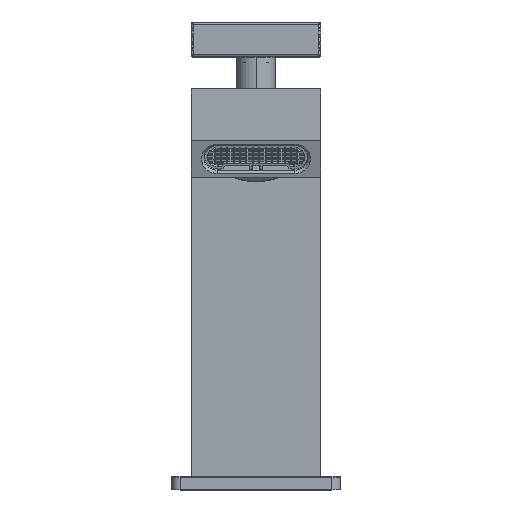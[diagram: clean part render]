
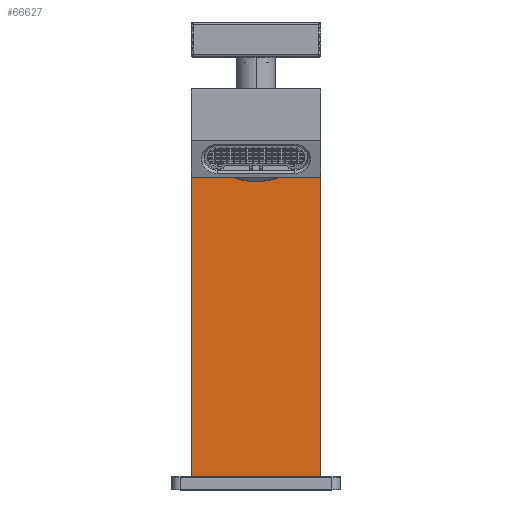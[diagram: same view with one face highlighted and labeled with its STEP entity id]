
A CAD part, top view. The second image highlights one B-rep face of the part: STEP entity #66627.
In plain terms, the highlighted planar face has unit normal (0, 0, 1).
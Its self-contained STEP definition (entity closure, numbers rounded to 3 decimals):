
#7160=DIRECTION('',(-1.,0.,0.));
#7161=VECTOR('',#7160,30.);
#7162=CARTESIAN_POINT('',(15.,81.,15.));
#7163=LINE('',#7162,#7161);
#7172=DIRECTION('',(1.,0.,0.));
#7173=VECTOR('',#7172,30.);
#7174=CARTESIAN_POINT('',(-15.,0.,15.));
#7175=LINE('',#7174,#7173);
#7192=DIRECTION('',(0.,-1.,0.));
#7193=VECTOR('',#7192,81.);
#7194=CARTESIAN_POINT('',(15.,81.,15.));
#7195=LINE('',#7194,#7193);
#7214=DIRECTION('',(0.,-1.,0.));
#7215=VECTOR('',#7214,81.);
#7216=CARTESIAN_POINT('',(-15.,81.,15.));
#7217=LINE('',#7216,#7215);
#56874=CARTESIAN_POINT('',(-15.,0.,15.));
#56876=VERTEX_POINT('',#56874);
#56878=CARTESIAN_POINT('',(15.,0.,15.));
#56880=VERTEX_POINT('',#56878);
#56882=CARTESIAN_POINT('',(-15.,81.,15.));
#56883=VERTEX_POINT('',#56882);
#56884=CARTESIAN_POINT('',(15.,81.,15.));
#56885=VERTEX_POINT('',#56884);
#66613=CARTESIAN_POINT('',(-15.,89.,15.));
#66614=DIRECTION('',(0.,0.,1.));
#66615=DIRECTION('',(0.,-1.,0.));
#66616=AXIS2_PLACEMENT_3D('',#66613,#66614,#66615);
#66617=PLANE('',#66616);
#66618=ORIENTED_EDGE('',*,*,#66585,.F.);
#66620=ORIENTED_EDGE('',*,*,#66619,.T.);
#66622=ORIENTED_EDGE('',*,*,#66621,.F.);
#66624=ORIENTED_EDGE('',*,*,#66623,.F.);
#66625=EDGE_LOOP('',(#66618,#66620,#66622,#66624));
#66626=FACE_OUTER_BOUND('',#66625,.F.);
#66585=EDGE_CURVE('',#56885,#56883,#7163,.T.);
#66619=EDGE_CURVE('',#56885,#56880,#7195,.T.);
#66621=EDGE_CURVE('',#56876,#56880,#7175,.T.);
#66623=EDGE_CURVE('',#56883,#56876,#7217,.T.);
#66627=ADVANCED_FACE('',(#66626),#66617,.T.);
